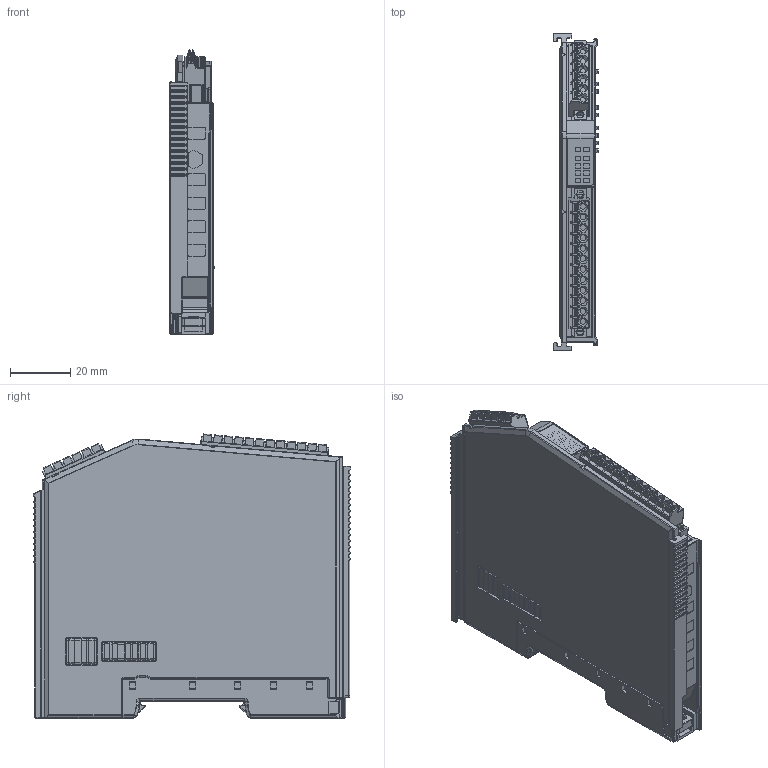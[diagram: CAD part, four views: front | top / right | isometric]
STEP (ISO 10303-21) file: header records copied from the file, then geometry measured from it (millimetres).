
FILE_DESCRIPTION (( 'STEP AP203' ), '1' );
FILE_NAME ('assy_AMAX-50XX_6P-12P.STEP', '2020-05-12T06:00:51', ( '' ), ( '' ), 'SwSTEP 2.0', 'SolidWorks 2018', '' );
FILE_SCHEMA (( 'CONFIG_CONTROL_DESIGN' ));
Products named in the file (1): assy_AMAX-50XX_6P-12P
Bounding box: 14.89 x 105.9 x 94.69 mm (x, y, z)
Topology: 0 solids, 126 shells, 6463 faces, 17135 edges, 10615 vertices
Faces by surface type: plane 3543, cylinder 1792, bspline 692, torus 218, sphere 162, cone 56
Entity records: 216151 total; most frequent: CARTESIAN_POINT 60271, ORIENTED_EDGE 33488, DIRECTION 30896, EDGE_CURVE 16887, VECTOR 11848, LINE 11848, VERTEX_POINT 10647, AXIS2_PLACEMENT_3D 9524
